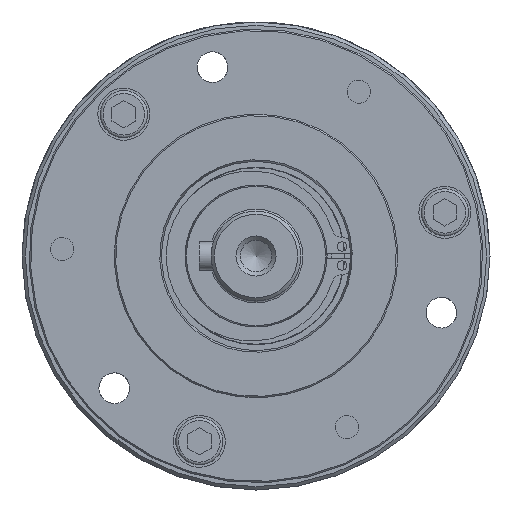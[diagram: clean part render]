
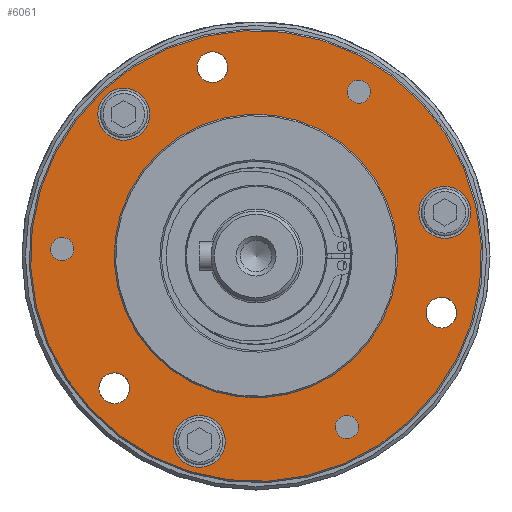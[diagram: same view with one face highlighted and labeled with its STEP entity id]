
A CAD part, left-side view. The second image highlights one B-rep face of the part: STEP entity #6061.
In plain terms, the highlighted planar face has unit normal (-1, 0, 0).
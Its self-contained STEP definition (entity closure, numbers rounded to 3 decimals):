
#1178=PLANE('',#6636);
#1310=FACE_BOUND('',#2120,.T.);
#1311=FACE_BOUND('',#2121,.T.);
#1312=FACE_BOUND('',#2122,.T.);
#1313=FACE_BOUND('',#2123,.T.);
#1314=FACE_BOUND('',#2124,.T.);
#1315=FACE_BOUND('',#2125,.T.);
#1316=FACE_BOUND('',#2126,.T.);
#1317=FACE_BOUND('',#2127,.T.);
#1318=FACE_BOUND('',#2128,.T.);
#1319=FACE_BOUND('',#2129,.T.);
#1659=FACE_OUTER_BOUND('',#2119,.T.);
#2119=EDGE_LOOP('',(#5213));
#2120=EDGE_LOOP('',(#5214));
#2121=EDGE_LOOP('',(#5215));
#2122=EDGE_LOOP('',(#5216));
#2123=EDGE_LOOP('',(#5217));
#2124=EDGE_LOOP('',(#5218));
#2125=EDGE_LOOP('',(#5219));
#2126=EDGE_LOOP('',(#5220));
#2127=EDGE_LOOP('',(#5221));
#2128=EDGE_LOOP('',(#5222));
#2129=EDGE_LOOP('',(#5223));
#2479=CIRCLE('',#6634,47.7);
#2481=CIRCLE('',#6637,30.);
#2482=CIRCLE('',#6638,2.459);
#2483=CIRCLE('',#6639,2.459);
#2484=CIRCLE('',#6640,2.459);
#2485=CIRCLE('',#6641,5.5);
#2486=CIRCLE('',#6642,5.5);
#2487=CIRCLE('',#6643,5.5);
#2488=CIRCLE('',#6644,3.25);
#2489=CIRCLE('',#6645,3.25);
#2490=CIRCLE('',#6646,3.25);
#3023=VERTEX_POINT('',#10329);
#3025=VERTEX_POINT('',#10334);
#3026=VERTEX_POINT('',#10336);
#3027=VERTEX_POINT('',#10338);
#3028=VERTEX_POINT('',#10340);
#3029=VERTEX_POINT('',#10342);
#3030=VERTEX_POINT('',#10344);
#3031=VERTEX_POINT('',#10346);
#3032=VERTEX_POINT('',#10348);
#3033=VERTEX_POINT('',#10350);
#3034=VERTEX_POINT('',#10352);
#3780=EDGE_CURVE('',#3023,#3023,#2479,.T.);
#3782=EDGE_CURVE('',#3025,#3025,#2481,.T.);
#3783=EDGE_CURVE('',#3026,#3026,#2482,.T.);
#3784=EDGE_CURVE('',#3027,#3027,#2483,.T.);
#3785=EDGE_CURVE('',#3028,#3028,#2484,.T.);
#3786=EDGE_CURVE('',#3029,#3029,#2485,.T.);
#3787=EDGE_CURVE('',#3030,#3030,#2486,.T.);
#3788=EDGE_CURVE('',#3031,#3031,#2487,.T.);
#3789=EDGE_CURVE('',#3032,#3032,#2488,.T.);
#3790=EDGE_CURVE('',#3033,#3033,#2489,.T.);
#3791=EDGE_CURVE('',#3034,#3034,#2490,.T.);
#5213=ORIENTED_EDGE('',*,*,#3780,.F.);
#5214=ORIENTED_EDGE('',*,*,#3782,.T.);
#5215=ORIENTED_EDGE('',*,*,#3783,.T.);
#5216=ORIENTED_EDGE('',*,*,#3784,.T.);
#5217=ORIENTED_EDGE('',*,*,#3785,.T.);
#5218=ORIENTED_EDGE('',*,*,#3786,.T.);
#5219=ORIENTED_EDGE('',*,*,#3787,.T.);
#5220=ORIENTED_EDGE('',*,*,#3788,.T.);
#5221=ORIENTED_EDGE('',*,*,#3789,.T.);
#5222=ORIENTED_EDGE('',*,*,#3790,.T.);
#5223=ORIENTED_EDGE('',*,*,#3791,.T.);
#6061=ADVANCED_FACE('',(#1659,#1310,#1311,#1312,#1313,#1314,#1315,#1316,
#1317,#1318,#1319),#1178,.T.);
#6634=AXIS2_PLACEMENT_3D('',#10330,#8072,#8073);
#6636=AXIS2_PLACEMENT_3D('',#10333,#8076,#8077);
#6637=AXIS2_PLACEMENT_3D('',#10335,#8078,#8079);
#6638=AXIS2_PLACEMENT_3D('',#10337,#8080,#8081);
#6639=AXIS2_PLACEMENT_3D('',#10339,#8082,#8083);
#6640=AXIS2_PLACEMENT_3D('',#10341,#8084,#8085);
#6641=AXIS2_PLACEMENT_3D('',#10343,#8086,#8087);
#6642=AXIS2_PLACEMENT_3D('',#10345,#8088,#8089);
#6643=AXIS2_PLACEMENT_3D('',#10347,#8090,#8091);
#6644=AXIS2_PLACEMENT_3D('',#10349,#8092,#8093);
#6645=AXIS2_PLACEMENT_3D('',#10351,#8094,#8095);
#6646=AXIS2_PLACEMENT_3D('',#10353,#8096,#8097);
#8072=DIRECTION('center_axis',(1.,0.,0.));
#8073=DIRECTION('ref_axis',(0.,0.974,-0.225));
#8076=DIRECTION('center_axis',(-1.,0.,0.));
#8077=DIRECTION('ref_axis',(0.,-0.225,-0.974));
#8078=DIRECTION('center_axis',(1.,0.,0.));
#8079=DIRECTION('ref_axis',(0.,-0.974,0.225));
#8080=DIRECTION('center_axis',(1.,0.,0.));
#8081=DIRECTION('ref_axis',(0.,-0.225,-0.974));
#8082=DIRECTION('center_axis',(1.,0.,0.));
#8083=DIRECTION('ref_axis',(0.,-0.225,-0.974));
#8084=DIRECTION('center_axis',(1.,0.,0.));
#8085=DIRECTION('ref_axis',(0.,-0.225,-0.974));
#8086=DIRECTION('center_axis',(1.,0.,0.));
#8087=DIRECTION('ref_axis',(0.,-0.225,-0.974));
#8088=DIRECTION('center_axis',(1.,0.,0.));
#8089=DIRECTION('ref_axis',(0.,-0.225,-0.974));
#8090=DIRECTION('center_axis',(1.,0.,0.));
#8091=DIRECTION('ref_axis',(0.,-0.225,-0.974));
#8092=DIRECTION('center_axis',(1.,0.,0.));
#8093=DIRECTION('ref_axis',(0.,-0.225,-0.974));
#8094=DIRECTION('center_axis',(1.,0.,0.));
#8095=DIRECTION('ref_axis',(0.,-0.225,-0.974));
#8096=DIRECTION('center_axis',(1.,0.,0.));
#8097=DIRECTION('ref_axis',(0.,-0.225,-0.974));
#10329=CARTESIAN_POINT('',(-14.5,-46.477,10.73));
#10330=CARTESIAN_POINT('Origin',(-14.5,0.,0.));
#10333=CARTESIAN_POINT('Origin',(-14.5,-38.,8.773));
#10334=CARTESIAN_POINT('',(-14.5,-29.231,6.749));
#10335=CARTESIAN_POINT('Origin',(-14.5,0.,0.));
#10336=CARTESIAN_POINT('',(-14.5,-19.801,-38.596));
#10337=CARTESIAN_POINT('Origin',(-14.5,-19.248,-36.201));
#10338=CARTESIAN_POINT('',(-14.5,-22.28,32.374));
#10339=CARTESIAN_POINT('Origin',(-14.5,-21.727,34.77));
#10340=CARTESIAN_POINT('',(-14.5,40.422,-0.965));
#10341=CARTESIAN_POINT('Origin',(-14.5,40.975,1.431));
#10342=CARTESIAN_POINT('',(-14.5,26.725,24.626));
#10343=CARTESIAN_POINT('Origin',(-14.5,27.962,29.986));
#10344=CARTESIAN_POINT('',(-14.5,-41.186,3.864));
#10345=CARTESIAN_POINT('Origin',(-14.5,-39.949,9.223));
#10346=CARTESIAN_POINT('',(-14.5,10.75,-44.568));
#10347=CARTESIAN_POINT('Origin',(-14.5,11.987,-39.208));
#10348=CARTESIAN_POINT('',(-14.5,8.492,36.782));
#10349=CARTESIAN_POINT('Origin',(-14.5,9.223,39.949));
#10350=CARTESIAN_POINT('',(-14.5,-39.94,-15.154));
#10351=CARTESIAN_POINT('Origin',(-14.5,-39.208,-11.987));
#10352=CARTESIAN_POINT('',(-14.5,29.254,-31.129));
#10353=CARTESIAN_POINT('Origin',(-14.5,29.986,-27.962));
